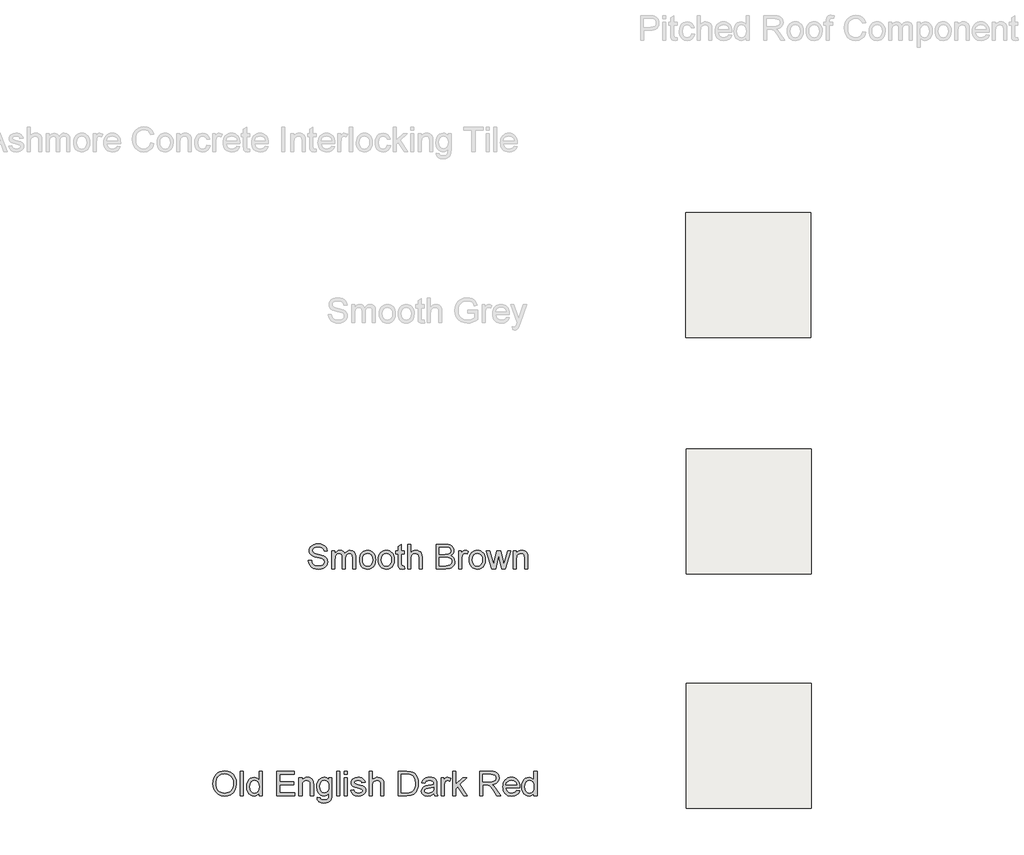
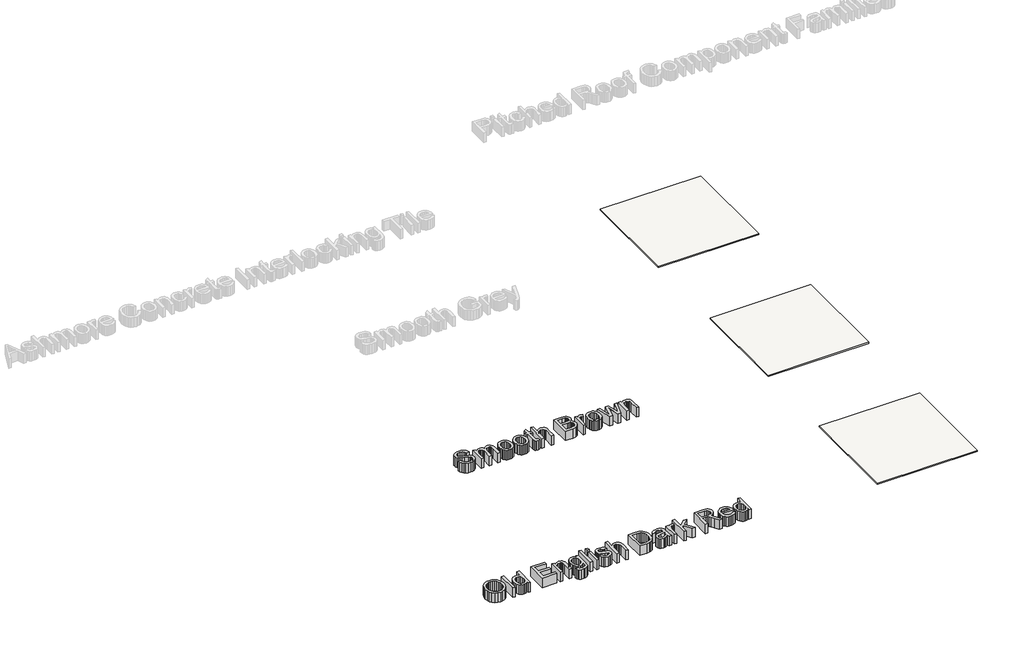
# One storey, part 1 of 4: 3 coverings, 2 proxies.
"""IFC4 building model written with IfcOpenShell, lengths in millimetres."""

from ifc_helpers import new_model, si_unit, frame, origin, place, context, project, spatial, polyline, outline, extrude, element, save

model = new_model("IFC4")

# Units and contexts
model_context = context("Model", 3, world=origin())
ifc_project = project(units=[si_unit("LENGTHUNIT", "METRE", prefix="MILLI")], contexts=[model_context])

# Site, building, storey
site = spatial("IfcSite", under=ifc_project)
building = spatial("IfcBuilding", under=site)
storey = spatial("IfcBuildingStorey", under=building, Name="Marley Concrete Interlocking Tiles", Elevation=3000.0)

# Proxies
placement = place(None, origin())
element("IfcBuildingElementProxy", 1, Name="600mm Arial", ObjectType="600mm Arial", at=placement, inside=storey, context=model_context, shape_type="SweptSolid", body=[
    extrude(outline(polyline([(-13171.8210125, -1920.2321456), (-13134.8979356, -1920.2321456), (-13130.6611567, -1940.7219292), (-13122.9988971, -1957.1912802), (-13111.0457721, -1970.2621937), (-13093.9363971, -1980.5566648), (-13073.0229356, -1987.2363523), (-13049.6575509, -1989.4629148), (-13029.0866375, -1987.7772177), (-13011.0758202, -1982.7201263), (-12996.4814692, -1974.7153187), (-12986.1599548, -1964.1864725), (-12980.0211327, -1952.0981312), (-12977.9748586, -1939.4148379), (-12979.5073106, -1927.0560638), (-12984.1046663, -1916.3739725), (-12993.4436086, -1907.2603908), (-13009.2008202, -1899.6071456), (-13062.9628394, -1885.5085879), (-13098.2543057, -1876.17866), (-13120.8354356, -1867.2994533), (-13139.2158442, -1854.8775783), (-13152.2416856, -1839.8234917), (-13160.0031038, -1822.4617129), (-13162.5902432, -1803.116761), (-13159.3901231, -1781.49116), (-13149.7897625, -1761.3258956), (-13134.0415654, -1744.2345494), (-13112.3979356, -1731.8307033), (-13086.4183682, -1724.2856312), (-13057.6623586, -1721.7706071), (-13026.5085125, -1724.4028187), (-12999.2488971, -1732.2994533), (-12976.8570702, -1745.2982513), (-12960.3065894, -1763.2369533), (-12949.8318298, -1784.9977706), (-12945.6671663, -1809.4629148), (-12982.5902432, -1809.4629148), (-12989.3690894, -1787.4316648), (-13003.5037048, -1771.5302225), (-13025.5890413, -1761.9028187), (-13056.2200509, -1758.693684), (-13087.5722144, -1761.866761), (-13109.0806279, -1771.3859917), (-13121.5205317, -1785.3944052), (-13125.6671663, -1802.0350302), (-13122.7284644, -1816.2237321), (-13113.9123586, -1827.6359917), (-13093.0710125, -1837.8403187), (-13053.6238971, -1848.2609917), (-12988.2873586, -1866.7946456), (-12967.2386807, -1880.1900783), (-12952.5541856, -1896.7225302), (-12943.9273827, -1916.2117129), (-12941.0517817, -1938.4773379), (-12944.360075, -1961.2387562), (-12954.2849548, -1982.648011), (-12970.4207721, -2001.0734917), (-12992.3618779, -2014.8835879), (-13018.7470942, -2023.5103908), (-13048.2152432, -2026.3859917), (-13084.3901231, -2023.2850302), (-13114.1647625, -2013.9821456), (-13137.8817096, -1998.4412802), (-13155.8835125, -1976.6263763), (-13167.4400029, -1950.0518571), (-13171.8210125, -1920.2321456)])), frame((0.0, 0.0, 3000.0), z_axis=(0.0, 0.0, 1.0), x_axis=(1.0, 0.0, 0.0)), (0.0, 0.0, 1.0), 150.0),
    extrude(outline(polyline([(-12890.2825509, -2021.7706071), (-12890.2825509, -1804.8475302), (-12853.359474, -1804.8475302), (-12853.359474, -1840.5446456), (-12842.2537048, -1824.14741), (-12827.9748586, -1811.3018571), (-12811.0097144, -1802.9995735), (-12791.8450509, -1800.2321456), (-12771.3101952, -1803.05366), (-12754.8498586, -1811.5182033), (-12742.5541856, -1825.0668812), (-12734.5133202, -1843.1407994), (-12721.0547865, -1824.3682634), (-12705.703224, -1810.959309), (-12688.4586327, -1802.9139364), (-12669.3210125, -1800.2321456), (-12641.5656038, -1804.694285), (-12621.0397625, -1818.0807033), (-12608.3564692, -1840.7519773), (-12604.1287048, -1873.068684), (-12604.1287048, -2021.7706071), (-12641.0517817, -2021.7706071), (-12641.0517817, -1888.9340687), (-12644.4772625, -1858.1047417), (-12649.2909644, -1849.6041408), (-12656.8811086, -1842.9244533), (-12666.6437288, -1838.5975302), (-12677.9748586, -1837.1552225), (-12697.9778634, -1840.851136), (-12714.2849548, -1851.9388763), (-12725.1293057, -1871.1756552), (-12728.7440894, -1899.318684), (-12728.7440894, -2021.7706071), (-12765.6671663, -2021.7706071), (-12765.6671663, -1884.8234917), (-12767.8035846, -1863.9460879), (-12774.2128394, -1849.054261), (-12785.4898827, -1840.1299821), (-12802.2296663, -1837.1552225), (-12816.4544259, -1839.1383956), (-12829.5613971, -1845.0879148), (-12840.3787048, -1854.8595494), (-12847.734474, -1868.3090687), (-12851.953224, -1886.9689244), (-12853.359474, -1912.3715687), (-12853.359474, -2021.7706071), (-12890.2825509, -2021.7706071)])), frame((0.0, 0.0, 3000.0), z_axis=(0.0, 0.0, 1.0), x_axis=(1.0, 0.0, 0.0)), (0.0, 0.0, 1.0), 150.0),
    extrude(outline(polyline([(-12557.9748586, -1913.3090687), (-12555.9781639, -1885.2156191), (-12549.9880798, -1861.007386), (-12540.0046062, -1840.6843691), (-12526.0277432, -1824.2465687), (-12511.9562288, -1813.7402586), (-12496.4243779, -1806.2357513), (-12479.4321904, -1801.733047), (-12460.9796663, -1800.2321456), (-12440.6093238, -1802.0598199), (-12422.1906038, -1807.5428427), (-12405.7235065, -1816.6812141), (-12391.2080317, -1829.474934), (-12379.3608262, -1845.4913102), (-12370.8985365, -1864.2976504), (-12365.8211627, -1885.8939545), (-12364.1287048, -1910.2802225), (-12367.1214932, -1947.5819052), (-12376.0998586, -1975.9773379), (-12390.8023827, -1997.2423619), (-12410.9676471, -2013.1528187), (-12434.9189692, -2023.0776985), (-12460.9796663, -2026.3859917), (-12481.6474848, -2024.5650783), (-12500.2374788, -2019.1023379), (-12516.7496483, -2009.9977706), (-12531.1839932, -1997.2513763), (-12542.9049969, -1981.0795013), (-12551.2771423, -1961.6984917), (-12556.3004295, -1939.1083475), (-12557.9748586, -1913.3090687)]), holes=[polyline([(-12521.0517817, -1913.2369533), (-12516.7789452, -1946.6534196), (-12503.9604356, -1970.460511), (-12484.6695702, -1984.7123138), (-12460.9796663, -1989.4629148), (-12437.3979356, -1984.6852706), (-12418.1431279, -1970.3523379), (-12405.3246182, -1946.2297417), (-12401.0517817, -1912.0831071), (-12405.3516615, -1879.6401985), (-12418.2513009, -1856.1576263), (-12437.5331519, -1841.9058235), (-12460.9796663, -1837.1552225), (-12484.6695702, -1841.8877946), (-12503.9604356, -1856.085511), (-12516.7789452, -1879.8385158), (-12521.0517817, -1913.2369533)])]), frame((0.0, 0.0, 3000.0), z_axis=(0.0, 0.0, 1.0), x_axis=(1.0, 0.0, 0.0)), (0.0, 0.0, 1.0), 150.0),
    extrude(outline(polyline([(-12331.8210125, -1913.3090687), (-12329.8243178, -1885.2156191), (-12323.8342336, -1861.007386), (-12313.8507601, -1840.6843691), (-12299.8738971, -1824.2465687), (-12285.8023827, -1813.7402586), (-12270.2705317, -1806.2357513), (-12253.2783442, -1801.733047), (-12234.8258202, -1800.2321456), (-12214.4554776, -1802.0598199), (-12196.0367577, -1807.5428427), (-12179.5696603, -1816.6812141), (-12165.0541856, -1829.474934), (-12153.20698, -1845.4913102), (-12144.7446904, -1864.2976504), (-12139.6673166, -1885.8939545), (-12137.9748586, -1910.2802225), (-12140.9676471, -1947.5819052), (-12149.9460125, -1975.9773379), (-12164.6485365, -1997.2423619), (-12184.8138009, -2013.1528187), (-12208.7651231, -2023.0776985), (-12234.8258202, -2026.3859917), (-12255.4936387, -2024.5650783), (-12274.0836327, -2019.1023379), (-12290.5958021, -2009.9977706), (-12305.0301471, -1997.2513763), (-12316.7511507, -1981.0795013), (-12325.1232961, -1961.6984917), (-12330.1465834, -1939.1083475), (-12331.8210125, -1913.3090687)]), holes=[polyline([(-12294.8979356, -1913.2369533), (-12290.625099, -1946.6534196), (-12277.8065894, -1970.460511), (-12258.515724, -1984.7123138), (-12234.8258202, -1989.4629148), (-12211.2440894, -1984.6852706), (-12191.9892817, -1970.3523379), (-12179.1707721, -1946.2297417), (-12174.8979356, -1912.0831071), (-12179.1978154, -1879.6401985), (-12192.0974548, -1856.1576263), (-12211.3793057, -1841.9058235), (-12234.8258202, -1837.1552225), (-12258.515724, -1841.8877946), (-12277.8065894, -1856.085511), (-12290.625099, -1879.8385158), (-12294.8979356, -1913.2369533)])]), frame((0.0, 0.0, 3000.0), z_axis=(0.0, 0.0, 1.0), x_axis=(1.0, 0.0, 0.0)), (0.0, 0.0, 1.0), 150.0),
    extrude(outline(polyline([(-12017.9748586, -1990.9773379), (-12013.359474, -2022.8523379), (-12040.9796663, -2026.3859917), (-12058.7020221, -2024.8535398), (-12071.9171663, -2020.256184), (-12081.2561086, -2013.1708475), (-12087.3498586, -2004.1744533), (-12090.703224, -1988.7237321), (-12091.8210125, -1962.2754148), (-12091.8210125, -1841.7706071), (-12119.5133202, -1841.7706071), (-12119.5133202, -1804.8475302), (-12091.8210125, -1804.8475302), (-12091.8210125, -1752.131184), (-12054.8979356, -1730.4244533), (-12054.8979356, -1804.8475302), (-12017.9748586, -1804.8475302), (-12017.9748586, -1841.7706071), (-12054.8979356, -1841.7706071), (-12054.8979356, -1961.193684), (-12052.9508202, -1980.2321456), (-12046.640724, -1986.974934), (-12034.0565894, -1989.4629148), (-12017.9748586, -1990.9773379)])), frame((0.0, 0.0, 3000.0), z_axis=(0.0, 0.0, 1.0), x_axis=(1.0, 0.0, 0.0)), (0.0, 0.0, 1.0), 150.0),
    extrude(outline(polyline([(-11981.0517817, -2021.7706071), (-11981.0517817, -1726.3859917), (-11944.1287048, -1726.3859917), (-11944.1287048, -1834.991761), (-11930.5665053, -1819.7844292), (-11915.3366375, -1808.9220494), (-11898.4391014, -1802.4046215), (-11879.8738971, -1800.2321456), (-11857.5722144, -1802.6029388), (-11838.4075509, -1809.7153187), (-11823.3174067, -1821.0103908), (-11813.2392817, -1835.929261), (-11807.5601952, -1856.428059), (-11805.6671663, -1884.4629148), (-11805.6671663, -2021.7706071), (-11842.5902432, -2021.7706071), (-11842.5902432, -1888.2850302), (-11845.5289452, -1865.1720494), (-11854.3450509, -1849.3427225), (-11868.5517817, -1840.2020975), (-11887.6623586, -1837.1552225), (-11903.266325, -1839.210511), (-11917.9147625, -1845.3763763), (-11930.0481759, -1855.0578667), (-11938.1070702, -1867.6600302), (-11942.6232961, -1884.4088283), (-11944.1287048, -1906.5302225), (-11944.1287048, -2021.7706071), (-11981.0517817, -2021.7706071)])), frame((0.0, 0.0, 3000.0), z_axis=(0.0, 0.0, 1.0), x_axis=(1.0, 0.0, 0.0)), (0.0, 0.0, 1.0), 150.0),
    extrude(outline(polyline([(-11634.8979356, -2021.7706071), (-11634.8979356, -1726.3859917), (-11522.1815894, -1726.3859917), (-11491.1809884, -1728.5584677), (-11466.9772625, -1735.0758956), (-11448.4255798, -1746.100535), (-11434.3811086, -1761.7946456), (-11425.5379596, -1780.256184), (-11422.5902432, -1799.5831071), (-11425.0692096, -1817.3685638), (-11432.5061086, -1834.0903187), (-11444.9550269, -1848.7207273), (-11462.4700509, -1860.2321456), (-11441.547575, -1871.1576263), (-11426.0878394, -1887.7802225), (-11416.5415654, -1909.0001744), (-11413.359474, -1933.7177225), (-11415.53195, -1954.3156792), (-11422.0493779, -1973.4172417), (-11431.7759404, -1989.6612321), (-11443.5758202, -2001.6864725), (-11458.0259404, -2010.3944052), (-11475.703224, -2016.6864725), (-11523.046974, -2021.7706071), (-11634.8979356, -2021.7706071)]), holes=[polyline([(-11597.9748586, -1846.3859917), (-11530.546974, -1846.3859917), (-11491.171974, -1843.2129148), (-11477.3889211, -1837.74116), (-11467.4820702, -1829.5470494), (-11461.5055077, -1818.756785), (-11459.5133202, -1805.4965687), (-11461.3702913, -1792.6239725), (-11466.9412048, -1781.4100302), (-11475.9736567, -1772.6570254), (-11488.2152432, -1767.1672417), (-11535.6671663, -1763.3090687), (-11597.9748586, -1763.3090687), (-11597.9748586, -1846.3859917)]), polyline([(-11597.9748586, -1984.8475302), (-11522.2537048, -1984.8475302), (-11494.8498586, -1983.4052225), (-11471.6647625, -1975.3643571), (-11456.3041856, -1958.9581071), (-11451.7879596, -1947.365559), (-11450.2825509, -1934.0782994), (-11452.0493779, -1918.6456071), (-11457.3498586, -1905.3763763), (-11466.6076711, -1895.0007754), (-11480.2464932, -1888.2489725), (-11499.5644019, -1884.5440446), (-11525.859474, -1883.3090687), (-11597.9748586, -1883.3090687), (-11597.9748586, -1984.8475302)])]), frame((0.0, 0.0, 3000.0), z_axis=(0.0, 0.0, 1.0), x_axis=(1.0, 0.0, 0.0)), (0.0, 0.0, 1.0), 150.0),
    extrude(outline(polyline([(-11367.2056279, -2021.7706071), (-11367.2056279, -1804.8475302), (-11334.8979356, -1804.8475302), (-11334.8979356, -1836.9388763), (-11322.9628394, -1818.3331071), (-11311.9652432, -1807.3715687), (-11300.9315894, -1802.0170013), (-11288.8883202, -1800.2321456), (-11270.4988971, -1803.0807033), (-11251.8210125, -1811.6263763), (-11264.1527432, -1844.7273379), (-11277.1335125, -1839.0482513), (-11290.1142817, -1837.1552225), (-11301.1389211, -1838.976136), (-11310.9916856, -1844.4388763), (-11318.9514211, -1853.1287802), (-11324.296974, -1864.631184), (-11328.7861567, -1885.256184), (-11330.2825509, -1907.756184), (-11330.2825509, -2021.7706071), (-11367.2056279, -2021.7706071)])), frame((0.0, 0.0, 3000.0), z_axis=(0.0, 0.0, 1.0), x_axis=(1.0, 0.0, 0.0)), (0.0, 0.0, 1.0), 150.0),
    extrude(outline(polyline([(-11237.9748586, -1913.3090687), (-11235.9781639, -1885.2156191), (-11229.9880798, -1861.007386), (-11220.0046062, -1840.6843691), (-11206.0277432, -1824.2465687), (-11191.9562288, -1813.7402586), (-11176.4243779, -1806.2357513), (-11159.4321904, -1801.733047), (-11140.9796663, -1800.2321456), (-11120.6093238, -1802.0598199), (-11102.1906038, -1807.5428427), (-11085.7235065, -1816.6812141), (-11071.2080317, -1829.474934), (-11059.3608262, -1845.4913102), (-11050.8985365, -1864.2976504), (-11045.8211627, -1885.8939545), (-11044.1287048, -1910.2802225), (-11047.1214932, -1947.5819052), (-11056.0998586, -1975.9773379), (-11070.8023827, -1997.2423619), (-11090.9676471, -2013.1528187), (-11114.9189692, -2023.0776985), (-11140.9796663, -2026.3859917), (-11161.6474848, -2024.5650783), (-11180.2374788, -2019.1023379), (-11196.7496483, -2009.9977706), (-11211.1839932, -1997.2513763), (-11222.9049969, -1981.0795013), (-11231.2771423, -1961.6984917), (-11236.3004295, -1939.1083475), (-11237.9748586, -1913.3090687)]), holes=[polyline([(-11201.0517817, -1913.2369533), (-11196.7789452, -1946.6534196), (-11183.9604356, -1970.460511), (-11164.6695702, -1984.7123138), (-11140.9796663, -1989.4629148), (-11117.3979356, -1984.6852706), (-11098.1431279, -1970.3523379), (-11085.3246182, -1946.2297417), (-11081.0517817, -1912.0831071), (-11085.3516615, -1879.6401985), (-11098.2513009, -1856.1576263), (-11117.5331519, -1841.9058235), (-11140.9796663, -1837.1552225), (-11164.6695702, -1841.8877946), (-11183.9604356, -1856.085511), (-11196.7789452, -1879.8385158), (-11201.0517817, -1913.2369533)])]), frame((0.0, 0.0, 3000.0), z_axis=(0.0, 0.0, 1.0), x_axis=(1.0, 0.0, 0.0)), (0.0, 0.0, 1.0), 150.0),
    extrude(outline(polyline([(-10966.6046663, -2021.7706071), (-11032.5902432, -1804.8475302), (-10994.2248586, -1804.8475302), (-10956.796974, -1931.4100302), (-10945.6190894, -1976.6263763), (-10936.4604356, -1933.068684), (-10906.6767817, -1804.8475302), (-10862.6863971, -1804.8475302), (-10833.046974, -1932.7081071), (-10824.8979356, -1972.1552225), (-10813.2152432, -1930.5446456), (-10775.7152432, -1804.8475302), (-10737.2056279, -1804.8475302), (-10803.6960125, -2021.7706071), (-10848.3354356, -2021.7706071), (-10876.6767817, -1894.5590687), (-10884.8979356, -1854.8956071), (-10921.4604356, -2021.7706071), (-10966.6046663, -2021.7706071)])), frame((0.0, 0.0, 3000.0), z_axis=(0.0, 0.0, 1.0), x_axis=(1.0, 0.0, 0.0)), (0.0, 0.0, 1.0), 150.0),
    extrude(outline(polyline([(-10711.8210125, -2021.7706071), (-10711.8210125, -1804.8475302), (-10674.8979356, -1804.8475302), (-10674.8979356, -1835.1359917), (-10662.0704115, -1819.865559), (-10646.6647625, -1808.9581071), (-10628.6809884, -1802.413636), (-10608.1190894, -1800.2321456), (-10589.9189692, -1801.9899581), (-10573.2513009, -1807.2633956), (-10559.3510606, -1815.3944052), (-10549.453224, -1825.724934), (-10538.3835125, -1852.8763763), (-10536.4363971, -1888.5734917), (-10536.4363971, -2021.7706071), (-10573.359474, -2021.7706071), (-10573.359474, -1893.5494533), (-10577.6142817, -1860.881184), (-10583.5007, -1851.1546215), (-10592.6503394, -1843.6095494), (-10604.3781038, -1838.7688042), (-10617.9988971, -1837.1552225), (-10639.6244981, -1840.7790206), (-10658.0589932, -1851.6504148), (-10665.4260305, -1860.5251143), (-10670.6882, -1872.6540206), (-10674.8979356, -1906.6744533), (-10674.8979356, -2021.7706071), (-10711.8210125, -2021.7706071)])), frame((0.0, 0.0, 3000.0), z_axis=(0.0, 0.0, 1.0), x_axis=(1.0, 0.0, 0.0)), (0.0, 0.0, 1.0), 150.0),
])
element("IfcBuildingElementProxy", 2, Name="600mm Arial", ObjectType="600mm Arial", at=placement, inside=storey, context=model_context, shape_type="SweptSolid", body=[
    extrude(outline(polyline([(-14319.5212039, -4607.5763206), (-14317.0602664, -4572.9293855), (-14309.6774539, -4542.2578109), (-14297.3727664, -4515.561597), (-14280.1462039, -4492.8407436), (-14259.0299179, -4474.6992172), (-14235.0560597, -4461.740984), (-14208.2246294, -4453.9660441), (-14178.535627, -4451.3743975), (-14139.7916366, -4456.2421859), (-14105.0500501, -4470.8455513), (-14076.2038962, -4494.1568494), (-14055.1462039, -4525.1484359), (-14042.2736078, -4562.3239167), (-14037.9827424, -4604.1868975), (-14042.4989683, -4646.6087725), (-14056.0476462, -4684.3070898), (-14077.8805789, -4715.3527629), (-14107.2495693, -4737.8167052), (-14141.6936799, -4751.4465129), (-14178.7519731, -4755.9897821), (-14218.0909155, -4750.9687484), (-14253.0308193, -4735.9056475), (-14281.8048578, -4712.1616571), (-14302.6462039, -4681.0979552), (-14315.3024539, -4645.3557677), (-14319.5212039, -4607.5763206)]), holes=[polyline([(-14282.598127, -4607.9368975), (-14280.7524239, -4632.4155633), (-14275.2153145, -4654.1448302), (-14265.9867989, -4673.124698), (-14253.066877, -4689.3551667), (-14237.3614984, -4702.3539648), (-14219.7766126, -4711.6388206), (-14200.3122195, -4717.209734), (-14178.9683193, -4719.0667052), (-14157.2593349, -4717.1917052), (-14137.5650741, -4711.5667052), (-14119.8855368, -4702.1917052), (-14104.2207231, -4689.0667052), (-14091.3954527, -4672.4936883), (-14082.2345453, -4652.7746379), (-14076.7380008, -4629.9095537), (-14074.9058193, -4603.8984359), (-14078.0428385, -4571.2121379), (-14087.4538962, -4542.9609359), (-14102.895603, -4519.8569696), (-14124.1245693, -4502.6123782), (-14149.7345453, -4491.8762004), (-14178.3192808, -4488.2974744), (-14198.9217448, -4490.0214828), (-14218.0368289, -4495.1935081), (-14235.6645332, -4503.8135501), (-14251.8048578, -4515.881609), (-14265.276913, -4531.979115), (-14274.8998097, -4552.6874984), (-14280.6735477, -4578.0067593), (-14282.598127, -4607.9368975)])]), frame((0.0, 0.0, 3000.0), z_axis=(0.0, 0.0, 1.0), x_axis=(1.0, 0.0, 0.0)), (0.0, 0.0, 1.0), 150.0),
    extrude(outline(polyline([(-13991.8288962, -4751.3743975), (-13991.8288962, -4455.9897821), (-13954.9058193, -4455.9897821), (-13954.9058193, -4751.3743975), (-13991.8288962, -4751.3743975)])), frame((0.0, 0.0, 3000.0), z_axis=(0.0, 0.0, 1.0), x_axis=(1.0, 0.0, 0.0)), (0.0, 0.0, 1.0), 150.0),
    extrude(outline(polyline([(-13765.6750501, -4751.3743975), (-13765.6750501, -4716.5426667), (-13776.7222255, -4733.8007797), (-13790.1041366, -4746.1280032), (-13805.8207832, -4753.5243374), (-13823.8721655, -4755.9897821), (-13847.7423578, -4752.4200706), (-13869.5933193, -4741.7109359), (-13888.0909155, -4724.6105754), (-13901.9010116, -4701.8671859), (-13910.5007712, -4674.4002388), (-13913.3673578, -4643.1292052), (-13910.7261318, -4612.2457917), (-13902.8024539, -4584.3551667), (-13889.6053385, -4561.0438686), (-13871.1438001, -4543.8984359), (-13848.8150741, -4533.3515609), (-13824.0163962, -4529.8359359), (-13805.9514924, -4532.35096), (-13789.9779347, -4539.8960321), (-13776.4382712, -4551.4615369), (-13765.6750501, -4566.037859), (-13765.6750501, -4455.9897821), (-13728.7519731, -4455.9897821), (-13728.7519731, -4751.3743975), (-13765.6750501, -4751.3743975)]), holes=[polyline([(-13876.4442808, -4642.9849744), (-13872.2796174, -4676.3834119), (-13859.785627, -4700.1364167), (-13841.6305789, -4714.3341331), (-13820.4827424, -4719.0667052), (-13799.3439203, -4714.5504792), (-13781.6486078, -4701.0018013), (-13769.6684395, -4678.1682677), (-13765.6750501, -4645.7974744), (-13769.7405549, -4610.4068494), (-13781.9370693, -4585.8695898), (-13800.083103, -4571.5366571), (-13821.9971655, -4566.7590129), (-13843.3613481, -4571.3473542), (-13860.8673578, -4585.1123782), (-13872.5500501, -4608.75721), (-13876.4442808, -4642.9849744)])]), frame((0.0, 0.0, 3000.0), z_axis=(0.0, 0.0, 1.0), x_axis=(1.0, 0.0, 0.0)), (0.0, 0.0, 1.0), 150.0),
    extrude(outline(polyline([(-13553.3673578, -4751.3743975), (-13553.3673578, -4455.9897821), (-13341.0596655, -4455.9897821), (-13341.0596655, -4492.912859), (-13516.4442808, -4492.912859), (-13516.4442808, -4580.6051667), (-13350.2904347, -4580.6051667), (-13350.2904347, -4617.5282436), (-13516.4442808, -4617.5282436), (-13516.4442808, -4714.4513206), (-13336.4442808, -4714.4513206), (-13336.4442808, -4751.3743975), (-13553.3673578, -4751.3743975)])), frame((0.0, 0.0, 3000.0), z_axis=(0.0, 0.0, 1.0), x_axis=(1.0, 0.0, 0.0)), (0.0, 0.0, 1.0), 150.0),
    extrude(outline(polyline([(-13285.6750501, -4751.3743975), (-13285.6750501, -4534.4513206), (-13248.7519731, -4534.4513206), (-13248.7519731, -4564.7397821), (-13235.9244491, -4549.4693494), (-13220.5188001, -4538.5618975), (-13202.535026, -4532.0174263), (-13181.973127, -4529.8359359), (-13163.7730068, -4531.5937484), (-13147.1053385, -4536.8671859), (-13133.2050981, -4544.9981956), (-13123.3072616, -4555.3287244), (-13112.2375501, -4582.4801667), (-13110.2904347, -4618.1772821), (-13110.2904347, -4751.3743975), (-13147.2135116, -4751.3743975), (-13147.2135116, -4623.1532436), (-13151.4683193, -4590.4849744), (-13157.3547376, -4580.7584119), (-13166.504377, -4573.2133398), (-13178.2321414, -4568.3725946), (-13191.8529347, -4566.7590129), (-13213.4785356, -4570.3828109), (-13231.9130308, -4581.2542052), (-13239.2800681, -4590.1289047), (-13244.5422376, -4602.2578109), (-13248.7519731, -4636.2782436), (-13248.7519731, -4751.3743975), (-13285.6750501, -4751.3743975)])), frame((0.0, 0.0, 3000.0), z_axis=(0.0, 0.0, 1.0), x_axis=(1.0, 0.0, 0.0)), (0.0, 0.0, 1.0), 150.0),
    extrude(outline(polyline([(-13068.7519731, -4769.8359359), (-13031.8288962, -4774.4513206), (-13027.754377, -4785.9897821), (-13019.8577424, -4793.9224744), (-13004.3349058, -4800.0883398), (-12984.0163962, -4802.1436282), (-12962.3457231, -4799.8179071), (-12946.2279347, -4792.8407436), (-12935.0500501, -4781.662859), (-12928.1990885, -4766.7349744), (-12925.6750501, -4723.6820898), (-12937.9617087, -4735.7974744), (-12951.6726462, -4744.4513206), (-12966.8078626, -4749.6436282), (-12983.3673578, -4751.3743975), (-13003.6114984, -4749.3596739), (-13021.4352664, -4743.3155032), (-13036.8386618, -4733.2418855), (-13049.8216847, -4719.1388206), (-13060.1229167, -4702.2187484), (-13067.4809395, -4683.694109), (-13073.3673578, -4641.8311282), (-13070.7261318, -4612.0204311), (-13062.8024539, -4584.6075706), (-13049.8757712, -4561.3774023), (-13032.2255308, -4544.1147821), (-13010.4556991, -4533.4056475), (-12985.1702424, -4529.8359359), (-12967.903115, -4531.8551667), (-12952.2315405, -4537.912859), (-12938.1555188, -4548.0090129), (-12925.6750501, -4562.1436282), (-12925.6750501, -4534.4513206), (-12888.7519731, -4534.4513206), (-12888.7519731, -4721.7349744), (-12891.2760116, -4764.9771619), (-12898.848127, -4793.4537244), (-12911.8919972, -4812.3389407), (-12930.8313001, -4826.8070898), (-12955.2513722, -4836.0018013), (-12984.7375501, -4839.0667052), (-13019.0915164, -4834.7487965), (-13046.1438001, -4821.7950706), (-13056.3323517, -4812.0707617), (-13063.4965645, -4800.1694696), (-13067.6364383, -4786.0911944), (-13068.7519731, -4769.8359359)]), holes=[polyline([(-13036.4442808, -4639.3070898), (-13032.504978, -4673.1742773), (-13020.6870693, -4696.4585321), (-13002.9196414, -4709.9531234), (-12981.1317808, -4714.4513206), (-12959.5061799, -4709.9801667), (-12941.6486078, -4696.5667052), (-12929.6684395, -4673.5799263), (-12925.6750501, -4640.3888206), (-12929.785627, -4608.3786042), (-12942.1173578, -4585.3287244), (-12960.2363481, -4571.4014407), (-12981.7087039, -4566.7590129), (-13002.7934395, -4571.3293254), (-13020.4707231, -4585.0402629), (-13032.4508914, -4607.7475946), (-13036.4442808, -4639.3070898)])]), frame((0.0, 0.0, 3000.0), z_axis=(0.0, 0.0, 1.0), x_axis=(1.0, 0.0, 0.0)), (0.0, 0.0, 1.0), 150.0),
    extrude(outline(polyline([(-12833.3673578, -4751.3743975), (-12833.3673578, -4455.9897821), (-12796.4442808, -4455.9897821), (-12796.4442808, -4751.3743975), (-12833.3673578, -4751.3743975)])), frame((0.0, 0.0, 3000.0), z_axis=(0.0, 0.0, 1.0), x_axis=(1.0, 0.0, 0.0)), (0.0, 0.0, 1.0), 150.0),
    extrude(outline(polyline([(-12741.0596655, -4751.3743975), (-12741.0596655, -4534.4513206), (-12704.1365885, -4534.4513206), (-12704.1365885, -4751.3743975), (-12741.0596655, -4751.3743975)])), frame((0.0, 0.0, 3000.0), z_axis=(0.0, 0.0, 1.0), x_axis=(1.0, 0.0, 0.0)), (0.0, 0.0, 1.0), 150.0),
    extrude(outline(polyline([(-12741.0596655, -4492.912859), (-12741.0596655, -4455.9897821), (-12704.1365885, -4455.9897821), (-12704.1365885, -4492.912859), (-12741.0596655, -4492.912859)])), frame((0.0, 0.0, 3000.0), z_axis=(0.0, 0.0, 1.0), x_axis=(1.0, 0.0, 0.0)), (0.0, 0.0, 1.0), 150.0),
    extrude(outline(polyline([(-12662.598127, -4686.7590129), (-12625.6750501, -4682.1436282), (-12619.8517328, -4697.9368975), (-12608.5837039, -4709.5474744), (-12591.7988481, -4716.6868975), (-12569.4250501, -4719.0667052), (-12547.3216847, -4716.8852148), (-12531.7808193, -4710.3407436), (-12522.5861078, -4700.8575706), (-12519.5212039, -4689.8599744), (-12522.6041366, -4680.4489167), (-12531.8529347, -4673.2734359), (-12569.8577424, -4662.7445898), (-12625.4587039, -4644.6796859), (-12639.5302183, -4635.6021619), (-12649.7255308, -4623.5859359), (-12655.9184395, -4609.397234), (-12657.9827424, -4593.8022821), (-12656.3240885, -4579.4963927), (-12651.348127, -4566.2902629), (-12643.5055789, -4554.7067292), (-12633.2471655, -4545.2686282), (-12609.7736078, -4534.3431475), (-12578.0067808, -4529.8359359), (-12553.9743289, -4531.647835), (-12533.0788962, -4537.0835321), (-12516.2760116, -4545.6111763), (-12504.5212039, -4556.6989167), (-12496.7327424, -4571.1670657), (-12491.8288962, -4589.8359359), (-12528.7519731, -4594.4513206), (-12533.4124299, -4582.8317292), (-12542.6341847, -4574.0787244), (-12556.5073818, -4568.5889407), (-12575.1221655, -4566.7590129), (-12596.3240885, -4568.5078109), (-12610.4587039, -4573.7542052), (-12618.4094251, -4581.3263206), (-12621.0596655, -4590.0522821), (-12616.660627, -4600.7974744), (-12602.8865885, -4608.9465129), (-12571.0837039, -4616.8070898), (-12516.8889924, -4634.1868975), (-12502.5740885, -4642.4981956), (-12491.7207231, -4653.8743975), (-12484.878776, -4668.3515609), (-12482.598127, -4685.9657436), (-12485.2754106, -4704.1748782), (-12493.3072616, -4721.3022821), (-12506.3871895, -4736.0048061), (-12524.2087039, -4746.9393013), (-12545.7351462, -4753.7271619), (-12569.9298578, -4755.9897821), (-12607.1594251, -4751.6268013), (-12634.3288962, -4738.537859), (-12652.4659155, -4716.8671859), (-12662.598127, -4686.7590129)])), frame((0.0, 0.0, 3000.0), z_axis=(0.0, 0.0, 1.0), x_axis=(1.0, 0.0, 0.0)), (0.0, 0.0, 1.0), 150.0),
    extrude(outline(polyline([(-12441.0596655, -4751.3743975), (-12441.0596655, -4455.9897821), (-12404.1365885, -4455.9897821), (-12404.1365885, -4564.5955513), (-12390.574389, -4549.3882196), (-12375.3445212, -4538.5258398), (-12358.4469852, -4532.0084119), (-12339.8817808, -4529.8359359), (-12317.5800981, -4532.2067292), (-12298.4154347, -4539.319109), (-12283.3252905, -4550.6141811), (-12273.2471655, -4565.5330513), (-12267.5680789, -4586.0318494), (-12265.6750501, -4614.0667052), (-12265.6750501, -4751.3743975), (-12302.598127, -4751.3743975), (-12302.598127, -4617.8888206), (-12305.5368289, -4594.7758398), (-12314.3529347, -4578.9465129), (-12328.5596655, -4569.8058879), (-12347.6702424, -4566.7590129), (-12363.2742087, -4568.8143013), (-12377.9226462, -4574.9801667), (-12390.0560597, -4584.6616571), (-12398.1149539, -4597.2638206), (-12402.6311799, -4614.0126186), (-12404.1365885, -4636.1340129), (-12404.1365885, -4751.3743975), (-12441.0596655, -4751.3743975)])), frame((0.0, 0.0, 3000.0), z_axis=(0.0, 0.0, 1.0), x_axis=(1.0, 0.0, 0.0)), (0.0, 0.0, 1.0), 150.0),
    extrude(outline(polyline([(-12094.9058193, -4751.3743975), (-12094.9058193, -4455.9897821), (-11993.0067808, -4455.9897821), (-11940.2904347, -4460.2445898), (-11916.7447616, -4468.4477148), (-11896.8769731, -4481.3743975), (-11876.4502905, -4503.8743975), (-11861.9010116, -4531.8551667), (-11853.1930789, -4564.7758398), (-11850.2904347, -4602.0955513), (-11852.2555789, -4633.7992773), (-11858.1510116, -4661.6989167), (-11867.129377, -4685.4519215), (-11878.3433193, -4704.7157436), (-11891.2519731, -4719.9230754), (-11905.3144731, -4731.506609), (-11921.4593049, -4740.0973542), (-11940.6149539, -4746.3263206), (-11988.1029347, -4751.3743975), (-12094.9058193, -4751.3743975)]), holes=[polyline([(-12057.9827424, -4714.4513206), (-11992.6462039, -4714.4513206), (-11965.6209635, -4713.1171859), (-11945.1221655, -4709.1147821), (-11929.6534155, -4702.678484), (-11917.7183193, -4694.0426667), (-11904.8907953, -4678.0600946), (-11895.254377, -4657.3719936), (-11889.223728, -4631.8882196), (-11887.2135116, -4601.5186282), (-11891.1528145, -4561.2782436), (-11902.9707231, -4531.5667052), (-11920.4316606, -4511.1580513), (-11941.3000501, -4498.8263206), (-11962.5380308, -4494.3912244), (-11993.6558193, -4492.912859), (-12057.9827424, -4492.912859), (-12057.9827424, -4714.4513206)])]), frame((0.0, 0.0, 3000.0), z_axis=(0.0, 0.0, 1.0), x_axis=(1.0, 0.0, 0.0)), (0.0, 0.0, 1.0), 150.0),
    extrude(outline(polyline([(-11665.6750501, -4723.6820898), (-11683.316276, -4738.8082917), (-11701.4803385, -4748.7061282), (-11720.581901, -4754.1688686), (-11741.035627, -4755.9897821), (-11771.8919972, -4751.6087725), (-11794.6534155, -4738.4657436), (-11808.6888722, -4718.5078109), (-11813.3673578, -4693.6820898), (-11811.6005308, -4678.3755994), (-11806.3000501, -4664.475359), (-11798.1239683, -4652.5763206), (-11787.7303385, -4643.2734359), (-11761.8769731, -4631.1580513), (-11729.9298578, -4625.6051667), (-11692.1774539, -4619.7638206), (-11665.8913962, -4612.912859), (-11665.6750501, -4604.6917052), (-11668.2171174, -4588.2133398), (-11675.8433193, -4577.4320898), (-11692.8986078, -4569.4272821), (-11716.660627, -4566.7590129), (-11738.6558193, -4568.5348542), (-11754.0163962, -4573.8623782), (-11764.4911558, -4583.7151427), (-11771.8288962, -4599.0667052), (-11808.7519731, -4594.4513206), (-11802.3427183, -4574.2590129), (-11792.7784155, -4558.3936282), (-11779.1666366, -4546.2602148), (-11760.6149539, -4537.2638206), (-11737.925651, -4531.6929071), (-11711.9010116, -4529.8359359), (-11686.9400741, -4531.4765609), (-11667.1534155, -4536.3984359), (-11652.2345453, -4543.7992773), (-11641.8769731, -4552.8768013), (-11635.0079828, -4564.0997581), (-11630.5548578, -4577.9368975), (-11628.7519731, -4610.2445898), (-11628.7519731, -4656.1820898), (-11626.8769731, -4720.3287244), (-11619.5212039, -4751.3743975), (-11656.4442808, -4751.3743975), (-11665.6750501, -4723.6820898)]), holes=[polyline([(-11665.6750501, -4649.8359359), (-11725.2423578, -4661.1580513), (-11757.0091847, -4667.1436282), (-11771.3962039, -4676.8792052), (-11776.4442808, -4691.0859359), (-11773.6948818, -4702.0655032), (-11765.4466847, -4711.0618975), (-11751.879978, -4717.0655032), (-11733.1750501, -4719.0667052), (-11713.3433193, -4716.8581715), (-11695.8192808, -4710.2325706), (-11681.6125501, -4700.4699504), (-11671.7327424, -4688.850359), (-11667.3517328, -4676.8792052), (-11665.8913962, -4660.2926667), (-11665.6750501, -4649.8359359)])]), frame((0.0, 0.0, 3000.0), z_axis=(0.0, 0.0, 1.0), x_axis=(1.0, 0.0, 0.0)), (0.0, 0.0, 1.0), 150.0),
    extrude(outline(polyline([(-11577.9827424, -4751.3743975), (-11577.9827424, -4534.4513206), (-11545.6750501, -4534.4513206), (-11545.6750501, -4566.5426667), (-11533.7399539, -4547.9368975), (-11522.7423578, -4536.975359), (-11511.7087039, -4531.6207917), (-11499.6654347, -4529.8359359), (-11481.2760116, -4532.6844936), (-11462.598127, -4541.2301667), (-11474.9298578, -4574.3311282), (-11487.910627, -4568.6520417), (-11500.8913962, -4566.7590129), (-11511.9160356, -4568.5799263), (-11521.7688001, -4574.0426667), (-11529.7285356, -4582.7325706), (-11535.0740885, -4594.2349744), (-11539.5632712, -4614.8599744), (-11541.0596655, -4637.3599744), (-11541.0596655, -4751.3743975), (-11577.9827424, -4751.3743975)])), frame((0.0, 0.0, 3000.0), z_axis=(0.0, 0.0, 1.0), x_axis=(1.0, 0.0, 0.0)), (0.0, 0.0, 1.0), 150.0),
    extrude(outline(polyline([(-11439.5212039, -4751.3743975), (-11439.5212039, -4455.9897821), (-11402.598127, -4455.9897821), (-11402.598127, -4614.7157436), (-11319.8096655, -4534.4513206), (-11268.7519731, -4534.4513206), (-11352.5500501, -4615.725359), (-11264.1365885, -4751.3743975), (-11307.2615885, -4751.3743975), (-11379.0163962, -4641.3984359), (-11402.598127, -4664.2590129), (-11402.598127, -4751.3743975), (-11439.5212039, -4751.3743975)])), frame((0.0, 0.0, 3000.0), z_axis=(0.0, 0.0, 1.0), x_axis=(1.0, 0.0, 0.0)), (0.0, 0.0, 1.0), 150.0),
    extrude(outline(polyline([(-11111.8288962, -4751.3743975), (-11111.8288962, -4455.9897821), (-10984.5452424, -4455.9897821), (-10950.3355068, -4457.9819696), (-10925.4466847, -4463.9585321), (-10907.2555789, -4474.9921859), (-10893.1389924, -4492.1556475), (-10884.0794972, -4513.4387004), (-10881.0596655, -4536.8311282), (-10886.0626703, -4565.9296859), (-10901.0716847, -4590.0522821), (-10912.4411258, -4599.8825105), (-10926.5374299, -4607.7385802), (-10962.910627, -4617.5282436), (-10941.9250501, -4633.3215129), (-10911.9971655, -4671.3263206), (-10862.7423578, -4751.3743975), (-10905.6510116, -4751.3743975), (-10944.0885116, -4690.1484359), (-10971.8529347, -4649.6195898), (-10991.3601462, -4630.4729552), (-11008.9202424, -4623.4417052), (-11030.3385116, -4622.1436282), (-11074.9058193, -4622.1436282), (-11074.9058193, -4751.3743975), (-11111.8288962, -4751.3743975)]), holes=[polyline([(-11074.9058193, -4585.2205513), (-10992.2615885, -4585.2205513), (-10968.5266126, -4583.91346), (-10950.1101462, -4579.9921859), (-10936.2459635, -4573.1953109), (-10926.1678385, -4563.2614167), (-10920.0290164, -4551.2451907), (-10917.9827424, -4538.2013206), (-10921.8859876, -4520.1905032), (-10933.5957231, -4505.6772821), (-10953.7429587, -4496.1039648), (-10982.9587039, -4492.912859), (-11074.9058193, -4492.912859), (-11074.9058193, -4585.2205513)])]), frame((0.0, 0.0, 3000.0), z_axis=(0.0, 0.0, 1.0), x_axis=(1.0, 0.0, 0.0)), (0.0, 0.0, 1.0), 150.0),
    extrude(outline(polyline([(-10669.1846655, -4686.7590129), (-10632.9827424, -4691.3743975), (-10646.0266126, -4718.6520417), (-10666.8409155, -4739.0426667), (-10694.956901, -4751.7530032), (-10729.9058193, -4755.9897821), (-10752.8159755, -4754.1621078), (-10773.2291366, -4748.679085), (-10791.1453025, -4739.5407136), (-10806.5644731, -4726.7469936), (-10818.9638121, -4710.6539948), (-10827.8204828, -4691.6177869), (-10833.1344852, -4669.6383698), (-10834.9058193, -4644.7157436), (-10833.1164563, -4618.9480153), (-10827.7483674, -4596.2361763), (-10818.8015525, -4576.5802268), (-10806.2760116, -4559.9801667), (-10790.8974058, -4546.7920657), (-10773.3913962, -4537.3719936), (-10753.7579828, -4531.7199504), (-10731.9971655, -4529.8359359), (-10710.9372195, -4531.7154432), (-10691.8919972, -4537.3539648), (-10674.8614984, -4546.7515008), (-10659.8457231, -4559.9080513), (-10647.5883614, -4576.4720537), (-10638.833103, -4596.0919456), (-10633.5799479, -4618.7677268), (-10631.8288962, -4644.4993975), (-10632.0452424, -4654.4513206), (-10797.9827424, -4654.4513206), (-10791.5915164, -4682.0895417), (-10776.7447616, -4702.4080513), (-10755.317478, -4714.9020417), (-10729.1846655, -4719.0667052), (-10709.5332231, -4717.1376186), (-10692.9827424, -4711.350359), (-10679.5332231, -4701.3443494), (-10669.1846655, -4686.7590129)]), holes=[polyline([(-10797.9827424, -4617.5282436), (-10668.7519731, -4617.5282436), (-10673.7459635, -4598.0210321), (-10683.535627, -4584.0667052), (-10705.0620693, -4571.0859359), (-10732.1413962, -4566.7590129), (-10757.0302183, -4570.2115369), (-10777.6101462, -4580.569109), (-10791.9160356, -4596.7139407), (-10797.9827424, -4617.5282436)])]), frame((0.0, 0.0, 3000.0), z_axis=(0.0, 0.0, 1.0), x_axis=(1.0, 0.0, 0.0)), (0.0, 0.0, 1.0), 150.0),
    extrude(outline(polyline([(-10461.0596655, -4751.3743975), (-10461.0596655, -4716.5426667), (-10472.1068409, -4733.8007797), (-10485.488752, -4746.1280032), (-10501.2053986, -4753.5243374), (-10519.2567808, -4755.9897821), (-10543.1269731, -4752.4200706), (-10564.9779347, -4741.7109359), (-10583.4755308, -4724.6105754), (-10597.285627, -4701.8671859), (-10605.8853866, -4674.4002388), (-10608.7519731, -4643.1292052), (-10606.1107472, -4612.2457917), (-10598.1870693, -4584.3551667), (-10584.9899539, -4561.0438686), (-10566.5284155, -4543.8984359), (-10544.1996895, -4533.3515609), (-10519.4010116, -4529.8359359), (-10501.3361078, -4532.35096), (-10485.3625501, -4539.8960321), (-10471.8228866, -4551.4615369), (-10461.0596655, -4566.037859), (-10461.0596655, -4455.9897821), (-10424.1365885, -4455.9897821), (-10424.1365885, -4751.3743975), (-10461.0596655, -4751.3743975)]), holes=[polyline([(-10571.8288962, -4642.9849744), (-10567.6642328, -4676.3834119), (-10555.1702424, -4700.1364167), (-10537.0151943, -4714.3341331), (-10515.8673578, -4719.0667052), (-10494.7285356, -4714.5504792), (-10477.0332231, -4701.0018013), (-10465.0530549, -4678.1682677), (-10461.0596655, -4645.7974744), (-10465.1251703, -4610.4068494), (-10477.3216847, -4585.8695898), (-10495.4677183, -4571.5366571), (-10517.3817808, -4566.7590129), (-10538.7459635, -4571.3473542), (-10556.2519731, -4585.1123782), (-10567.9346655, -4608.75721), (-10571.8288962, -4642.9849744)])]), frame((0.0, 0.0, 3000.0), z_axis=(0.0, 0.0, 1.0), x_axis=(1.0, 0.0, 0.0)), (0.0, 0.0, 1.0), 150.0),
])

# Coverings
element("IfcCovering", 3, ObjectType="Marley_ConcreteInterlockingTile-AshmoreSmoothGrey", at=placement, inside=storey, context=model_context, shape_type="SweptSolid", body=[
    extrude(outline(polyline([(-8635.1122414, 759.5677503), (-8635.1122414, 2259.5677503), (-7135.1122414, 2259.5677503), (-7135.1122414, 759.5677503), (-8635.1122414, 759.5677503)])), frame((0.0, 0.0, 3000.0), z_axis=(0.0, 0.0, 1.0), x_axis=(1.0, 0.0, 0.0)), (0.0, 0.0, 1.0), 16.0),
])
element("IfcCovering", 4, ObjectType="Marley_ConcreteInterlockingTile-AshmoreSmoothBrown", at=placement, inside=storey, context=model_context, shape_type="SweptSolid", body=[
    extrude(outline(polyline([(-8630.6178851, -2080.5687467), (-8630.6178851, -580.5687467), (-7130.6178851, -580.5687467), (-7130.6178851, -2080.5687467), (-8630.6178851, -2080.5687467)])), frame((0.0, 0.0, 3000.0), z_axis=(0.0, 0.0, 1.0), x_axis=(1.0, 0.0, 0.0)), (0.0, 0.0, 1.0), 16.0),
])
element("IfcCovering", 5, ObjectType="Marley_ConcreteInterlockingTile-AshmoreOldEnglishDarkRed", at=placement, inside=storey, context=model_context, shape_type="SweptSolid", body=[
    extrude(outline(polyline([(-8630.6178851, -4900.5687467), (-8630.6178851, -3400.5687467), (-7130.6178851, -3400.5687467), (-7130.6178851, -4900.5687467), (-8630.6178851, -4900.5687467)])), frame((0.0, 0.0, 3000.0), z_axis=(0.0, 0.0, 1.0), x_axis=(1.0, 0.0, 0.0)), (0.0, 0.0, 1.0), 16.0),
])

save(model, "model.ifc")
